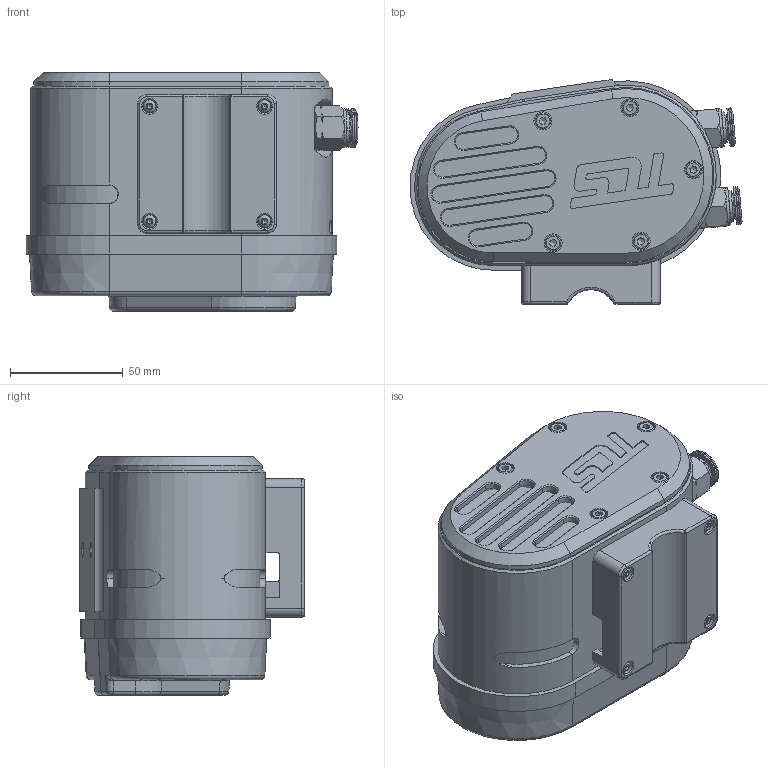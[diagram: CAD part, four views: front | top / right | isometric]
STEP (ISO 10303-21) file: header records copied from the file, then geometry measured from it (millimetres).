
FILE_DESCRIPTION (( 'STEP AP214' ), '1' );
FILE_NAME ('V4000-TCS REV 2.STEP', '2019-02-18T14:15:43', ( '' ), ( '' ), 'SwSTEP 2.0', 'SolidWorks 2016', '' );
FILE_SCHEMA (( 'AUTOMOTIVE_DESIGN' ));
Length unit declared in the file: millimetre
Products named in the file (10): P-0020_M4x35 Socket Head Screw; P-0778; P-1126_B18.3.5M - 3 x 0.5 x 12 Socket FCHS  -- 12C; P-1125_B18.3.5M - 3 x 0.5 x 12 Socket FCHS  -- 12C; V4000-TCS REV 2; P-1104; P-1088; P-0162_ISO 7380 - M3 x 12 --- 12C; P-1108; P-1089
Assembly tree (17 placements, depth 2):
  V4000-TCS REV 2
    P-1089
    P-1088
    P-1104
    P-0020_M4x35 Socket Head Screw  x5
    P-0778  x2
    P-1108
    P-0162_ISO 7380 - M3 x 12 --- 12C  x4
    P-1125_B18.3.5M - 3 x 0.5 x 12 Socket FCHS  -- 12C
    P-1126_B18.3.5M - 3 x 0.5 x 12 Socket FCHS  -- 12C
Bounding box: 147.26 x 99.74 x 106 mm (x, y, z)
Volume: 1382255.2 mm3; surface area: 180744.6 mm2
Topology: 18 solids, 20 shells, 1027 faces, 2428 edges, 1466 vertices
Faces by surface type: plane 396, cylinder 304, cone 184, torus 88, bspline 34, sphere 21
Full cylindrical faces by diameter (mm): 2.5 x12, 3 x6, 3.2 x5, 3.3 x10, 3.5 x8, 3.6 x1, 4 x5, 4.2 x4, 4.5 x5, 5 x6, 5.35 x2, 5.7 x4, 6 x6, 6.72 x2, 7 x5, 8 x5, 9.7 x2, 11.4 x2, 11.8 x4, 17 x4, 46.6 x1, 60 x1
Entity records: 26349 total; most frequent: CARTESIAN_POINT 7660, DIRECTION 3834, ORIENTED_EDGE 3398, EDGE_CURVE 1699, AXIS2_PLACEMENT_3D 1552, VERTEX_POINT 1118, EDGE_LOOP 1063, FACE_OUTER_BOUND 912
